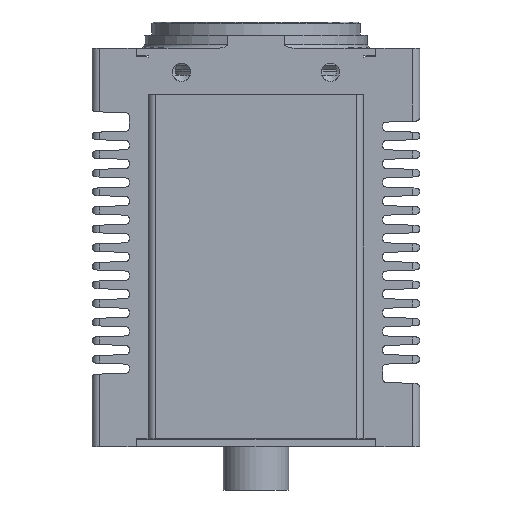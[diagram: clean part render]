
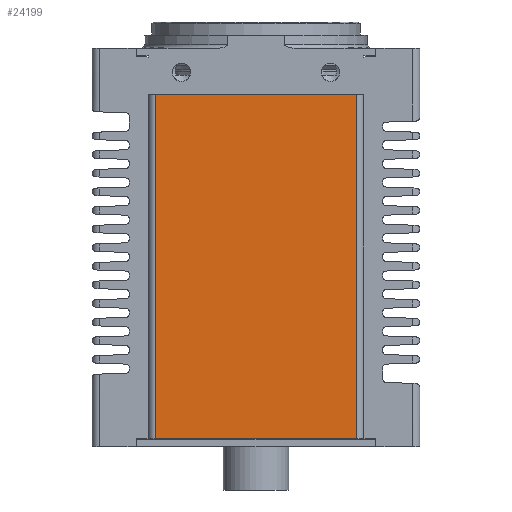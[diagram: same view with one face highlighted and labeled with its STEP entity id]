
A CAD part, front view. The second image highlights one B-rep face of the part: STEP entity #24199.
In plain terms, the highlighted planar face has unit normal (0, -1, 0).
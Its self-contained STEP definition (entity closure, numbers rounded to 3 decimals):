
#1346=LINE('',#40214,#3044);
#1348=LINE('',#40224,#3046);
#1349=LINE('',#40226,#3047);
#1350=LINE('',#40227,#3048);
#3044=VECTOR('',#31300,10.);
#3046=VECTOR('',#31316,10.);
#3047=VECTOR('',#31317,10.);
#3048=VECTOR('',#31318,10.);
#5778=FACE_OUTER_BOUND('',#7221,.T.);
#7221=EDGE_LOOP('',(#18279,#18280,#18281,#18282));
#10486=VERTEX_POINT('',#40211);
#10487=VERTEX_POINT('',#40213);
#10488=VERTEX_POINT('',#40223);
#10489=VERTEX_POINT('',#40225);
#13374=EDGE_CURVE('',#10487,#10486,#1346,.T.);
#13377=EDGE_CURVE('',#10488,#10486,#1348,.T.);
#13378=EDGE_CURVE('',#10488,#10489,#1349,.T.);
#13379=EDGE_CURVE('',#10489,#10487,#1350,.T.);
#18279=ORIENTED_EDGE('',*,*,#13374,.T.);
#18280=ORIENTED_EDGE('',*,*,#13377,.F.);
#18281=ORIENTED_EDGE('',*,*,#13378,.T.);
#18282=ORIENTED_EDGE('',*,*,#13379,.T.);
#21901=PLANE('',#26399);
#24199=ADVANCED_FACE('',(#5778),#21901,.T.);
#26399=AXIS2_PLACEMENT_3D('',#40222,#31314,#31315);
#31300=DIRECTION('',(-1.,0.,0.));
#31314=DIRECTION('center_axis',(0.,-1.,0.));
#31315=DIRECTION('ref_axis',(0.,0.,1.));
#31316=DIRECTION('',(0.,0.,1.));
#31317=DIRECTION('',(1.,0.,0.));
#31318=DIRECTION('',(0.,0.,1.));
#40211=CARTESIAN_POINT('',(-13.5,-14.4,-0.05));
#40213=CARTESIAN_POINT('',(13.5,-14.4,-0.05));
#40214=CARTESIAN_POINT('',(-13.5,-14.4,-0.05));
#40222=CARTESIAN_POINT('Origin',(0.,-14.4,-46.25));
#40223=CARTESIAN_POINT('',(-13.5,-14.4,-46.25));
#40224=CARTESIAN_POINT('',(-13.5,-14.4,-46.25));
#40225=CARTESIAN_POINT('',(13.5,-14.4,-46.25));
#40226=CARTESIAN_POINT('',(0.,-14.4,-46.25));
#40227=CARTESIAN_POINT('',(13.5,-14.4,-46.25));
